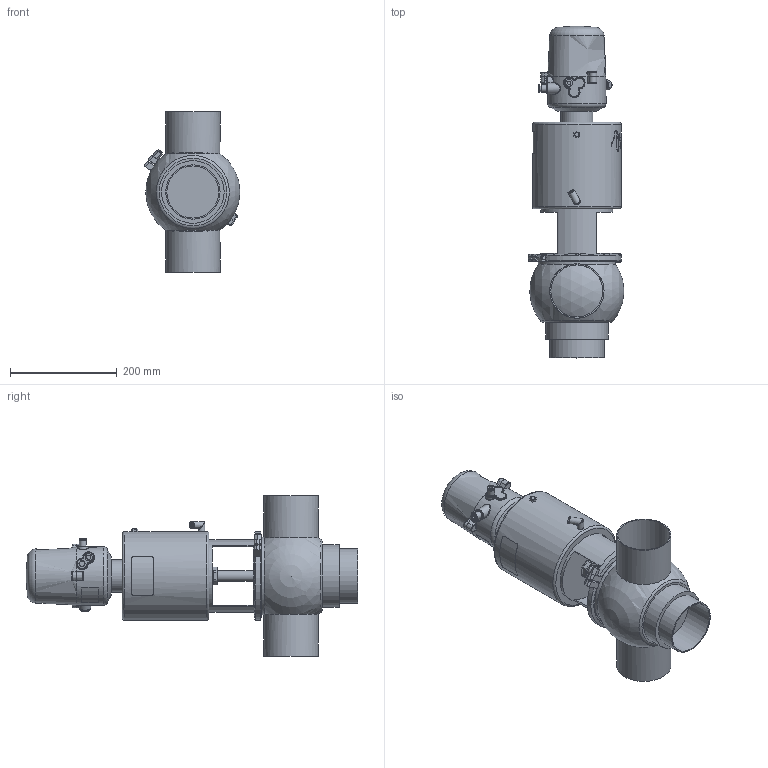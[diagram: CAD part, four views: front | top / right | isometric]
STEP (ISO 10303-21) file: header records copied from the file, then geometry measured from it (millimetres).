
FILE_DESCRIPTION (( 'STEP AP214' ), '1' );
FILE_NAME ('INNOVA N T W OD 4 T4 AS NC & C-TOP S_10.240.16.0058.STEP', '2024-08-06T08:18:06', ( '' ), ( '' ), 'SwSTEP 2.0', 'SolidWorks 2023', '' );
FILE_SCHEMA (( 'AUTOMOTIVE_DESIGN' ));
Length unit declared in the file: millimetre
Products named in the file (7): 10.240.15.0003_OD 4"; 10.426.15.0001_C-TOP S - 1 EV; 10.240.15.0010_DN 100; 10.240.15.0014_T4 AS P0; INNOVA N T W OD 4 T4 AS NC & C-TOP S_10.240.16.0058; 10.240.15.0017_Estàndard; 10.240.15.0001_DN 100
Assembly tree (6 placements, depth 2):
  INNOVA N T W OD 4 T4 AS NC & C-TOP S_10.240.16.0058
    10.240.15.0003_OD 4"
    10.240.15.0010_DN 100
    10.240.15.0014_T4 AS P0
    10.240.15.0017_Estàndard
    10.426.15.0001_C-TOP S - 1 EV
    10.240.15.0001_DN 100
Bounding box: 179.26 x 620.5 x 300 mm (x, y, z)
Volume: 8124967.7 mm3; surface area: 580967.2 mm2
Topology: 6 solids, 6 shells, 1103 faces, 2653 edges, 1770 vertices
Faces by surface type: plane 376, cylinder 332, cone 191, bspline 160, torus 37, sphere 7
Full cylindrical faces by diameter (mm): 0.371 x17, 0.512 x16, 0.658 x16, 0.795 x16, 0.94 x15, 1.098 x15, 1.241 x13, 1.382 x13, 1.523 x11, 1.669 x10, 2.201 x1, 4 x2, 5.5 x2, 6 x2, 6.15 x1, 8 x4, 8.5 x1, 10 x1, 10.5 x1, 11 x2, 12.5 x3, 13 x2, 13.5 x2, 16 x1, 17 x3, 20 x3, 20.5 x1, 22 x2, 31 x1, 34.5 x3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
Entity records: 57855 total; most frequent: CARTESIAN_POINT 27832, ORIENTED_EDGE 4498, DIRECTION 3611, EDGE_CURVE 2249, VERTEX_POINT 1598, EDGE_LOOP 1553, AXIS2_PLACEMENT_3D 1477, FACE_OUTER_BOUND 1317
